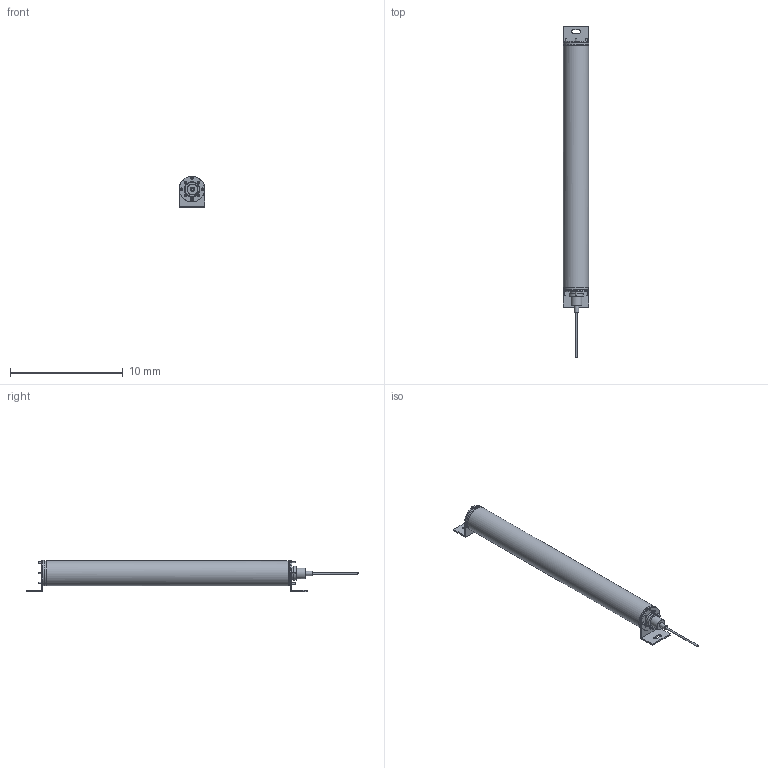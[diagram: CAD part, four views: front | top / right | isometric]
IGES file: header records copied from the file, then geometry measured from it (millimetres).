
Start section:  Autodesk DirectConnect version 7.0.27.0 ---- IGES version 5.3
Global section: file name: C:\ACADFILES\MG_PYLONS\CUSTOMER_FILES\MG-20-PYLON_3D_SMB_PT.iges; native system: Autodesk DirectConnect 7.0.27.0; preprocessor: 7.0.27.0; author: ENGINEERMAIN; organization: Unknown; date: 20150810.133256; units: millimetre
Bounding box: 2.26 x 29.44 x 2.75 mm (x, y, z)
Surface area: 682.2 mm2 (no closed solid volume)
Topology: 0 solids, 0 shells, 784 faces, 4052 edges, 4055 vertices
Faces by surface type: bspline 784
